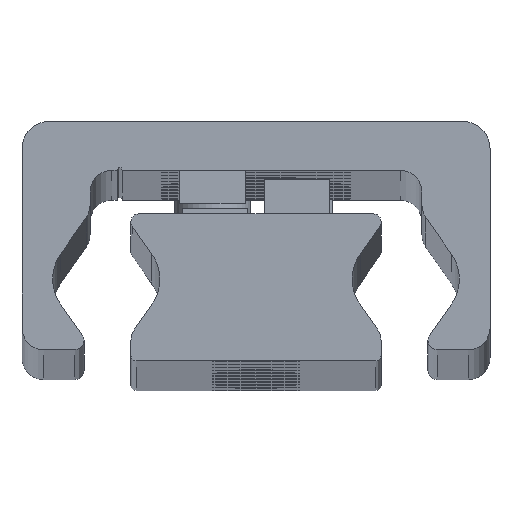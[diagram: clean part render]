
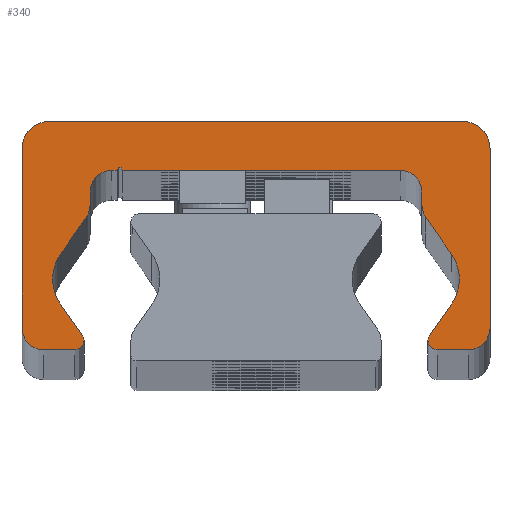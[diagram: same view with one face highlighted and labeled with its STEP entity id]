
A CAD part, top view. The second image highlights one B-rep face of the part: STEP entity #340.
In plain terms, the highlighted planar face has unit normal (0, 0, 1).
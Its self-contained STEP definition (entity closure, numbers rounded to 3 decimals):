
#340=ADVANCED_FACE('',(#978),#979,.T.);
#978=FACE_OUTER_BOUND('',#1617,.T.);
#979=PLANE('',#1618);
#1617=EDGE_LOOP('',(#3754,#3755,#3756,#3757,#3758,#3759,#3760,#3761,#3762,#3763,#3764,#3765,#3766,#3767,#3768,#3769,#3770,#3771,#3772,#3773,#3774,#3775,#3776,#3777,#3778,#3779,#3780,#3781,#3782,#3783));
#1618=AXIS2_PLACEMENT_3D('',#3784,#3785,#3786);
#3754=ORIENTED_EDGE('',*,*,#4199,.F.);
#3755=ORIENTED_EDGE('',*,*,#4502,.F.);
#3756=ORIENTED_EDGE('',*,*,#4185,.F.);
#3757=ORIENTED_EDGE('',*,*,#4501,.F.);
#3758=ORIENTED_EDGE('',*,*,#4497,.F.);
#3759=ORIENTED_EDGE('',*,*,#4494,.F.);
#3760=ORIENTED_EDGE('',*,*,#4491,.F.);
#3761=ORIENTED_EDGE('',*,*,#4488,.F.);
#3762=ORIENTED_EDGE('',*,*,#4485,.F.);
#3763=ORIENTED_EDGE('',*,*,#4482,.F.);
#3764=ORIENTED_EDGE('',*,*,#4479,.F.);
#3765=ORIENTED_EDGE('',*,*,#4476,.F.);
#3766=ORIENTED_EDGE('',*,*,#4473,.F.);
#3767=ORIENTED_EDGE('',*,*,#4470,.F.);
#3768=ORIENTED_EDGE('',*,*,#4191,.F.);
#3769=ORIENTED_EDGE('',*,*,#4468,.F.);
#3770=ORIENTED_EDGE('',*,*,#4193,.F.);
#3771=ORIENTED_EDGE('',*,*,#4467,.F.);
#3772=ORIENTED_EDGE('',*,*,#4463,.F.);
#3773=ORIENTED_EDGE('',*,*,#4460,.F.);
#3774=ORIENTED_EDGE('',*,*,#4457,.F.);
#3775=ORIENTED_EDGE('',*,*,#4454,.F.);
#3776=ORIENTED_EDGE('',*,*,#4451,.F.);
#3777=ORIENTED_EDGE('',*,*,#4448,.F.);
#3778=ORIENTED_EDGE('',*,*,#4445,.F.);
#3779=ORIENTED_EDGE('',*,*,#4442,.F.);
#3780=ORIENTED_EDGE('',*,*,#4439,.F.);
#3781=ORIENTED_EDGE('',*,*,#4436,.F.);
#3782=ORIENTED_EDGE('',*,*,#4433,.F.);
#3783=ORIENTED_EDGE('',*,*,#4430,.F.);
#3784=CARTESIAN_POINT('',(-0.023,14.187,1570.0));
#3785=DIRECTION('',(0.0,0.0,1.0));
#3786=DIRECTION('',(1.0,0.0,0.0));
#4185=EDGE_CURVE('',#5084,#5087,#5088,.T.);
#4191=EDGE_CURVE('',#5097,#5093,#5099,.T.);
#4193=EDGE_CURVE('',#5100,#5103,#5104,.T.);
#4199=EDGE_CURVE('',#5113,#5109,#5115,.T.);
#4430=EDGE_CURVE('',#5109,#5486,#5487,.T.);
#4433=EDGE_CURVE('',#5486,#5491,#5492,.T.);
#4436=EDGE_CURVE('',#5491,#5496,#5497,.T.);
#4439=EDGE_CURVE('',#5496,#5501,#5502,.T.);
#4442=EDGE_CURVE('',#5501,#5506,#5507,.T.);
#4445=EDGE_CURVE('',#5506,#5511,#5512,.T.);
#4448=EDGE_CURVE('',#5511,#5516,#5517,.T.);
#4451=EDGE_CURVE('',#5516,#5521,#5522,.T.);
#4454=EDGE_CURVE('',#5521,#5526,#5527,.T.);
#4457=EDGE_CURVE('',#5526,#5531,#5532,.T.);
#4460=EDGE_CURVE('',#5531,#5536,#5537,.T.);
#4463=EDGE_CURVE('',#5536,#5541,#5542,.T.);
#4467=EDGE_CURVE('',#5541,#5100,#5547,.T.);
#4468=EDGE_CURVE('',#5103,#5097,#5548,.T.);
#4470=EDGE_CURVE('',#5093,#5550,#5551,.T.);
#4473=EDGE_CURVE('',#5550,#5555,#5556,.T.);
#4476=EDGE_CURVE('',#5555,#5560,#5561,.T.);
#4479=EDGE_CURVE('',#5560,#5565,#5566,.T.);
#4482=EDGE_CURVE('',#5565,#5570,#5571,.T.);
#4485=EDGE_CURVE('',#5570,#5575,#5576,.T.);
#4488=EDGE_CURVE('',#5575,#5580,#5581,.T.);
#4491=EDGE_CURVE('',#5580,#5585,#5586,.T.);
#4494=EDGE_CURVE('',#5585,#5590,#5591,.T.);
#4497=EDGE_CURVE('',#5590,#5595,#5596,.T.);
#4501=EDGE_CURVE('',#5595,#5084,#5601,.T.);
#4502=EDGE_CURVE('',#5087,#5113,#5602,.T.);
#5084=VERTEX_POINT('',#6364);
#5087=VERTEX_POINT('',#6368);
#5088=CIRCLE('',#6369,0.85);
#5093=VERTEX_POINT('',#6375);
#5097=VERTEX_POINT('',#6380);
#5099=CIRCLE('',#6383,0.85);
#5100=VERTEX_POINT('',#6384);
#5103=VERTEX_POINT('',#6388);
#5104=CIRCLE('',#6389,4.);
#5109=VERTEX_POINT('',#6395);
#5113=VERTEX_POINT('',#6400);
#5115=CIRCLE('',#6403,4.);
#5486=VERTEX_POINT('',#6880);
#5487=CIRCLE('',#6881,4.);
#5491=VERTEX_POINT('',#6886);
#5492=LINE('',#6887,#6888);
#5496=VERTEX_POINT('',#6894);
#5497=CIRCLE('',#6895,2.);
#5501=VERTEX_POINT('',#6900);
#5502=LINE('',#6901,#6902);
#5506=VERTEX_POINT('',#6908);
#5507=CIRCLE('',#6909,2.0);
#5511=VERTEX_POINT('',#6914);
#5512=LINE('',#6915,#6916);
#5516=VERTEX_POINT('',#6922);
#5517=CIRCLE('',#6923,0.25);
#5521=VERTEX_POINT('',#6928);
#5522=LINE('',#6929,#6930);
#5526=VERTEX_POINT('',#6936);
#5527=CIRCLE('',#6937,2.0);
#5531=VERTEX_POINT('',#6942);
#5532=LINE('',#6943,#6944);
#5536=VERTEX_POINT('',#6950);
#5537=CIRCLE('',#6951,2.0);
#5541=VERTEX_POINT('',#6956);
#5542=LINE('',#6957,#6958);
#5547=CIRCLE('',#6965,4.);
#5548=LINE('',#6966,#6967);
#5550=VERTEX_POINT('',#6970);
#5551=CIRCLE('',#6971,0.85);
#5555=VERTEX_POINT('',#6976);
#5556=LINE('',#6977,#6978);
#5560=VERTEX_POINT('',#6984);
#5561=CIRCLE('',#6985,2.);
#5565=VERTEX_POINT('',#6990);
#5566=LINE('',#6991,#6992);
#5570=VERTEX_POINT('',#6998);
#5571=CIRCLE('',#6999,2.5);
#5575=VERTEX_POINT('',#7004);
#5576=LINE('',#7005,#7006);
#5580=VERTEX_POINT('',#7012);
#5581=CIRCLE('',#7013,2.5);
#5585=VERTEX_POINT('',#7018);
#5586=LINE('',#7019,#7020);
#5590=VERTEX_POINT('',#7026);
#5591=CIRCLE('',#7027,2.);
#5595=VERTEX_POINT('',#7032);
#5596=LINE('',#7033,#7034);
#5601=CIRCLE('',#7041,0.85);
#5602=LINE('',#7042,#7043);
#6364=CARTESIAN_POINT('',(15.8,1.859,1570.0));
#6368=CARTESIAN_POINT('',(15.922,2.298,1570.0));
#6369=AXIS2_PLACEMENT_3D('',#7779,#7780,#7781);
#6375=CARTESIAN_POINT('',(-15.8,1.859,1570.0));
#6380=CARTESIAN_POINT('',(-15.922,2.298,1570.0));
#6383=AXIS2_PLACEMENT_3D('',#7791,#7792,#7793);
#6384=CARTESIAN_POINT('',(-18.688,7.509,1570.0));
#6388=CARTESIAN_POINT('',(-17.964,5.214,1570.0));
#6389=AXIS2_PLACEMENT_3D('',#7795,#7796,#7797);
#6395=CARTESIAN_POINT('',(18.688,7.509,1570.0));
#6400=CARTESIAN_POINT('',(17.964,5.214,1570.0));
#6403=AXIS2_PLACEMENT_3D('',#7807,#7808,#7809);
#6880=CARTESIAN_POINT('',(17.964,9.803,1570.0));
#6881=AXIS2_PLACEMENT_3D('',#8288,#8289,#8290);
#6886=CARTESIAN_POINT('',(15.612,13.163,1570.0));
#6887=CARTESIAN_POINT('',(15.612,13.163,1570.0));
#6888=VECTOR('',#8295,1.0);
#6894=CARTESIAN_POINT('',(15.25,14.31,1570.0));
#6895=AXIS2_PLACEMENT_3D('',#8298,#8299,#8300);
#6900=CARTESIAN_POINT('',(15.25,15.509,1570.0));
#6901=CARTESIAN_POINT('',(15.25,15.509,1570.0));
#6902=VECTOR('',#8305,1.0);
#6908=CARTESIAN_POINT('',(13.25,17.509,1570.0));
#6909=AXIS2_PLACEMENT_3D('',#8308,#8309,#8310);
#6914=CARTESIAN_POINT('',(-12.25,17.509,1570.0));
#6915=CARTESIAN_POINT('',(-12.25,17.509,1570.0));
#6916=VECTOR('',#8315,1.0);
#6922=CARTESIAN_POINT('',(-12.75,17.509,1570.0));
#6923=AXIS2_PLACEMENT_3D('',#8318,#8319,#8320);
#6928=CARTESIAN_POINT('',(-13.25,17.509,1570.0));
#6929=CARTESIAN_POINT('',(-13.25,17.509,1570.0));
#6930=VECTOR('',#8325,1.0);
#6936=CARTESIAN_POINT('',(-15.25,15.509,1570.0));
#6937=AXIS2_PLACEMENT_3D('',#8328,#8329,#8330);
#6942=CARTESIAN_POINT('',(-15.25,14.31,1570.0));
#6943=CARTESIAN_POINT('',(-15.25,14.31,1570.0));
#6944=VECTOR('',#8335,1.0);
#6950=CARTESIAN_POINT('',(-15.612,13.163,1570.0));
#6951=AXIS2_PLACEMENT_3D('',#8338,#8339,#8340);
#6956=CARTESIAN_POINT('',(-17.964,9.803,1570.0));
#6957=CARTESIAN_POINT('',(-17.964,9.803,1570.0));
#6958=VECTOR('',#8345,1.0);
#6965=AXIS2_PLACEMENT_3D('',#8351,#8352,#8353);
#6966=CARTESIAN_POINT('',(-15.922,2.298,1570.0));
#6967=VECTOR('',#8354,1.0);
#6970=CARTESIAN_POINT('',(-16.65,1.009,1570.0));
#6971=AXIS2_PLACEMENT_3D('',#8356,#8357,#8358);
#6976=CARTESIAN_POINT('',(-19.5,1.009,1570.0));
#6977=CARTESIAN_POINT('',(-19.5,1.009,1570.0));
#6978=VECTOR('',#8363,1.0);
#6984=CARTESIAN_POINT('',(-21.5,3.009,1570.0));
#6985=AXIS2_PLACEMENT_3D('',#8366,#8367,#8368);
#6990=CARTESIAN_POINT('',(-21.5,19.509,1570.0));
#6991=CARTESIAN_POINT('',(-21.5,19.509,1570.0));
#6992=VECTOR('',#8373,1.0);
#6998=CARTESIAN_POINT('',(-19.0,22.009,1570.0));
#6999=AXIS2_PLACEMENT_3D('',#8376,#8377,#8378);
#7004=CARTESIAN_POINT('',(19.0,22.009,1570.0));
#7005=CARTESIAN_POINT('',(19.0,22.009,1570.0));
#7006=VECTOR('',#8383,1.0);
#7012=CARTESIAN_POINT('',(21.5,19.509,1570.0));
#7013=AXIS2_PLACEMENT_3D('',#8386,#8387,#8388);
#7018=CARTESIAN_POINT('',(21.5,3.009,1570.0));
#7019=CARTESIAN_POINT('',(21.5,3.009,1570.0));
#7020=VECTOR('',#8393,1.0);
#7026=CARTESIAN_POINT('',(19.5,1.009,1570.0));
#7027=AXIS2_PLACEMENT_3D('',#8396,#8397,#8398);
#7032=CARTESIAN_POINT('',(16.65,1.009,1570.0));
#7033=CARTESIAN_POINT('',(16.65,1.009,1570.0));
#7034=VECTOR('',#8403,1.0);
#7041=AXIS2_PLACEMENT_3D('',#8409,#8410,#8411);
#7042=CARTESIAN_POINT('',(17.964,5.214,1570.0));
#7043=VECTOR('',#8412,1.0);
#7779=CARTESIAN_POINT('',(16.65,1.859,1570.0));
#7780=DIRECTION('',(0.0,0.0,-1.0));
#7781=DIRECTION('',(1.0,0.0,0.0));
#7791=CARTESIAN_POINT('',(-16.65,1.859,1570.0));
#7792=DIRECTION('',(0.0,0.0,-1.0));
#7793=DIRECTION('',(1.0,0.0,0.0));
#7795=CARTESIAN_POINT('',(-14.688,7.509,1570.0));
#7796=DIRECTION('',(0.0,0.0,1.0));
#7797=DIRECTION('',(1.0,0.0,0.0));
#7807=CARTESIAN_POINT('',(14.688,7.509,1570.0));
#7808=DIRECTION('',(0.0,0.0,1.0));
#7809=DIRECTION('',(1.0,0.0,0.0));
#8288=CARTESIAN_POINT('',(14.688,7.509,1570.0));
#8289=DIRECTION('',(0.0,0.0,1.0));
#8290=DIRECTION('',(1.0,0.0,0.0));
#8295=DIRECTION('',(-0.574,0.819,0.0));
#8298=CARTESIAN_POINT('',(17.25,14.31,1570.0));
#8299=DIRECTION('',(0.0,0.0,-1.0));
#8300=DIRECTION('',(1.0,0.0,0.0));
#8305=DIRECTION('',(0.0,1.0,0.0));
#8308=CARTESIAN_POINT('',(13.25,15.509,1570.0));
#8309=DIRECTION('',(0.0,0.0,1.0));
#8310=DIRECTION('',(1.0,0.0,0.0));
#8315=DIRECTION('',(-1.0,-0.0,-0.0));
#8318=CARTESIAN_POINT('',(-12.5,17.509,1570.0));
#8319=DIRECTION('',(0.0,0.0,1.0));
#8320=DIRECTION('',(1.0,0.0,0.0));
#8325=DIRECTION('',(-1.0,-0.0,-0.0));
#8328=CARTESIAN_POINT('',(-13.25,15.509,1570.0));
#8329=DIRECTION('',(0.0,0.0,1.0));
#8330=DIRECTION('',(1.0,0.0,0.0));
#8335=DIRECTION('',(-0.0,-1.0,-0.0));
#8338=CARTESIAN_POINT('',(-17.25,14.31,1570.0));
#8339=DIRECTION('',(0.0,0.0,-1.0));
#8340=DIRECTION('',(1.0,0.0,0.0));
#8345=DIRECTION('',(-0.574,-0.819,-0.0));
#8351=CARTESIAN_POINT('',(-14.688,7.509,1570.0));
#8352=DIRECTION('',(0.0,0.0,1.0));
#8353=DIRECTION('',(1.0,0.0,0.0));
#8354=DIRECTION('',(0.574,-0.819,0.0));
#8356=CARTESIAN_POINT('',(-16.65,1.859,1570.0));
#8357=DIRECTION('',(0.0,0.0,-1.0));
#8358=DIRECTION('',(1.0,0.0,0.0));
#8363=DIRECTION('',(-1.0,-0.0,-0.0));
#8366=CARTESIAN_POINT('',(-19.5,3.009,1570.0));
#8367=DIRECTION('',(0.0,0.0,-1.0));
#8368=DIRECTION('',(1.0,0.0,0.0));
#8373=DIRECTION('',(0.0,1.0,0.0));
#8376=CARTESIAN_POINT('',(-19.0,19.509,1570.0));
#8377=DIRECTION('',(0.0,0.0,-1.0));
#8378=DIRECTION('',(1.0,0.0,0.0));
#8383=DIRECTION('',(1.0,0.0,0.0));
#8386=CARTESIAN_POINT('',(19.0,19.509,1570.0));
#8387=DIRECTION('',(0.0,0.0,-1.0));
#8388=DIRECTION('',(1.0,0.0,0.0));
#8393=DIRECTION('',(-0.0,-1.0,-0.0));
#8396=CARTESIAN_POINT('',(19.5,3.009,1570.0));
#8397=DIRECTION('',(0.0,0.0,-1.0));
#8398=DIRECTION('',(1.0,0.0,0.0));
#8403=DIRECTION('',(-1.0,-0.0,-0.0));
#8409=CARTESIAN_POINT('',(16.65,1.859,1570.0));
#8410=DIRECTION('',(0.0,0.0,-1.0));
#8411=DIRECTION('',(1.0,0.0,0.0));
#8412=DIRECTION('',(0.574,0.819,0.0));
